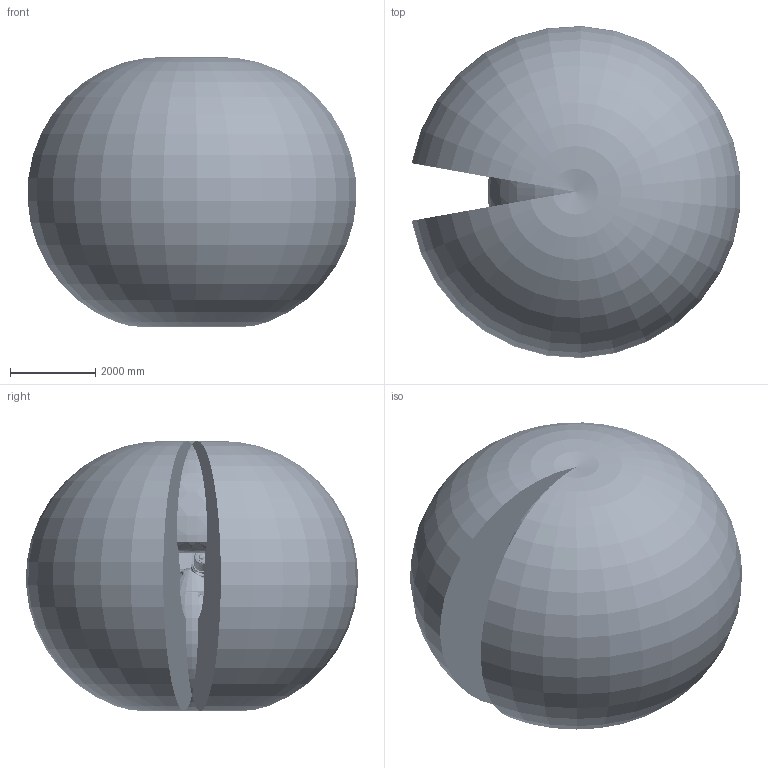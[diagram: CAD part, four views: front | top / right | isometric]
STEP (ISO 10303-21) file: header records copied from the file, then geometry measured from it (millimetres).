
FILE_DESCRIPTION (( 'STEP AP214' ), '1' );
FILE_NAME ('IRB6750S_215kg-390_OC_01_ASM_CAD.step', '2026-05-13T05:20:51', ( '' ), ( '' ), 'SwSTEP 2.0', 'SolidWorks 2024', '' );
FILE_SCHEMA (( 'AUTOMOTIVE_DESIGN' ));
Length unit declared in the file: millimetre
Products named in the file (14): IRB6750S_215kg-390_OC_01_ASM_CAD; IRB6750S_All-390_OC_00_LINK04_CAD; IRB6750S_215kg-390_OC_00_Working-envelope; IRB6750S_All_OC_00_LINK02_CAD; IRB6750S-ALL-OC_00_LINK03m_CABLE; IRB6750S_All_OC_00_ROD_CAD; IRB6750S_All_OC_00_LINK01_CAD; IRB6750S_215kg-390_OC_00_LINK06_CAD; IRB6750S-ALL-OC_00_LINK01m_CABLE; IRB6750S_All-390_OC_01_LINK05_CAD; IRB6750S_All_OC_00_LINK03_CAD; IRB6750S_All_OC_00_CYL_CAD; IRB6750S_All_OC_00_BASE_CAD; IRB6750S-ALL-OC_00_LINK02m_CABLE
Assembly tree (13 placements, depth 2):
  IRB6750S_215kg-390_OC_01_ASM_CAD
    IRB6750S_All_OC_00_BASE_CAD
    IRB6750S_All_OC_00_CYL_CAD
    IRB6750S_All_OC_00_ROD_CAD
    IRB6750S_All_OC_00_LINK03_CAD
    IRB6750S_All_OC_00_LINK02_CAD
    IRB6750S_All-390_OC_00_LINK04_CAD
    IRB6750S_215kg-390_OC_00_LINK06_CAD
    IRB6750S_All_OC_00_LINK01_CAD
    IRB6750S-ALL-OC_00_LINK01m_CABLE
    IRB6750S-ALL-OC_00_LINK02m_CABLE
    IRB6750S-ALL-OC_00_LINK03m_CABLE
    IRB6750S_215kg-390_OC_00_Working-envelope
    IRB6750S_All-390_OC_01_LINK05_CAD
Bounding box: 7727.49 x 7802.12 x 6344.05 mm (x, y, z)
Volume: 193098411537.8 mm3; surface area: 253371064 mm2
Topology: 18 solids, 50 shells, 6676 faces, 17035 edges, 11144 vertices
Faces by surface type: plane 3560, cylinder 1316, cone 951, bspline 680, torus 157, sphere 12
Full cylindrical faces by diameter (mm): 3.3 x1, 4.2 x4, 4.8 x3, 5 x31, 5.2 x4, 5.45 x1, 6 x5, 6.351 x2, 6.6 x4, 6.8 x22, 7 x4, 8 x12, 8.3 x2, 8.5 x24, 9 x4, 9.5 x4, 10 x16, 10.2 x39, 10.22 x24, 10.5 x2, 11.05 x2, 12 x33, 12.5 x2, 13 x6, 13.27 x24, 14 x25, 16 x31, 16.27 x20, 17 x36, 17.4 x1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
Entity records: 363502 total; most frequent: CARTESIAN_POINT 162682, ORIENTED_EDGE 29982, DIRECTION 26877, EDGE_CURVE 14991, VERTEX_POINT 10489, AXIS2_PLACEMENT_3D 10065, EDGE_LOOP 8926, FACE_OUTER_BOUND 7552
